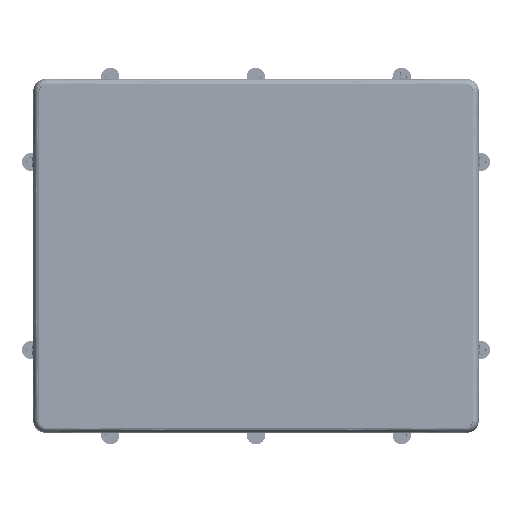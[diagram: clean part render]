
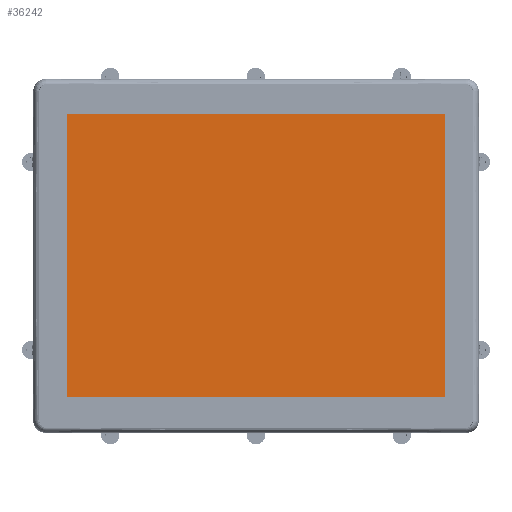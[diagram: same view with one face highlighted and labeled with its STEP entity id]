
A CAD part, top view. The second image highlights one B-rep face of the part: STEP entity #36242.
In plain terms, the highlighted planar face has unit normal (0, 0, 1).
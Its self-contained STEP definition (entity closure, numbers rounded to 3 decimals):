
#11928=DIRECTION('',(0.,-1.,0.));
#11929=VECTOR('',#11928,228.9);
#11930=CARTESIAN_POINT('',(-152.5,114.45,5.92));
#11931=LINE('',#11930,#11929);
#11944=DIRECTION('',(1.,0.,0.));
#11945=VECTOR('',#11944,305.);
#11946=CARTESIAN_POINT('',(-152.5,-114.45,5.92));
#11947=LINE('',#11946,#11945);
#11956=DIRECTION('',(0.,1.,0.));
#11957=VECTOR('',#11956,228.9);
#11958=CARTESIAN_POINT('',(152.5,-114.45,5.92));
#11959=LINE('',#11958,#11957);
#11968=DIRECTION('',(-1.,0.,0.));
#11969=VECTOR('',#11968,305.);
#11970=CARTESIAN_POINT('',(152.5,114.45,5.92));
#11971=LINE('',#11970,#11969);
#21372=CARTESIAN_POINT('',(152.5,114.45,5.92));
#21373=CARTESIAN_POINT('',(-152.5,114.45,5.92));
#21374=VERTEX_POINT('',#21372);
#21375=VERTEX_POINT('',#21373);
#21376=CARTESIAN_POINT('',(152.5,-114.45,5.92));
#21377=VERTEX_POINT('',#21376);
#21378=CARTESIAN_POINT('',(-152.5,-114.45,5.92));
#21379=VERTEX_POINT('',#21378);
#36231=CARTESIAN_POINT('',(0.,0.,5.92));
#36232=DIRECTION('',(0.,0.,1.));
#36233=DIRECTION('',(1.,0.,0.));
#36234=AXIS2_PLACEMENT_3D('',#36231,#36232,#36233);
#36235=PLANE('',#36234);
#36236=ORIENTED_EDGE('',*,*,#36219,.F.);
#36237=ORIENTED_EDGE('',*,*,#36199,.F.);
#36238=ORIENTED_EDGE('',*,*,#36178,.F.);
#36239=ORIENTED_EDGE('',*,*,#36157,.F.);
#36240=EDGE_LOOP('',(#36236,#36237,#36238,#36239));
#36241=FACE_OUTER_BOUND('',#36240,.F.);
#36242=ADVANCED_FACE('',(#36241),#36235,.T.);
#36157=EDGE_CURVE('',#21375,#21379,#11931,.T.);
#36178=EDGE_CURVE('',#21379,#21377,#11947,.T.);
#36199=EDGE_CURVE('',#21377,#21374,#11959,.T.);
#36219=EDGE_CURVE('',#21374,#21375,#11971,.T.);
